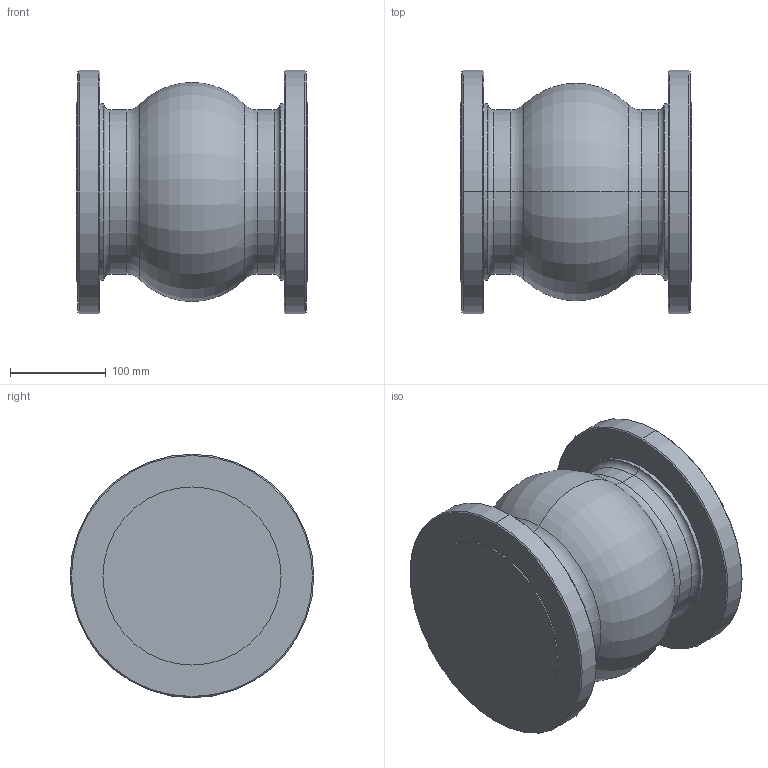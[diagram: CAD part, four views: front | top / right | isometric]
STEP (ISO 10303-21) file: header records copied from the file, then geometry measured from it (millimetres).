
FILE_DESCRIPTION (( 'STEP AP203' ), '1' );
FILE_NAME ('GLC 5 150.step', '2016-07-11T17:59:39', ( '' ), ( '' ), 'SwSTEP 2.0', 'SolidWorks 2015', '' );
FILE_SCHEMA (( 'CONFIG_CONTROL_DESIGN' ));
Length unit declared in the file: inch
Products named in the file (1): GLC 5 150
Bounding box: 241.3 x 254 x 254 mm (x, y, z)
Volume: 8347364.9 mm3; surface area: 318331.5 mm2
Topology: 1 solids, 1 shells, 42 faces, 82 edges, 48 vertices
Faces by surface type: cylinder 16, torus 10, cone 8, plane 8
Entity records: 1163 total; most frequent: DIRECTION 226, CARTESIAN_POINT 173, ORIENTED_EDGE 164, AXIS2_PLACEMENT_3D 101, EDGE_CURVE 82, CIRCLE 58, EDGE_LOOP 48, VERTEX_POINT 48
